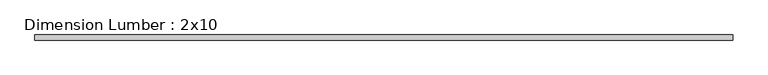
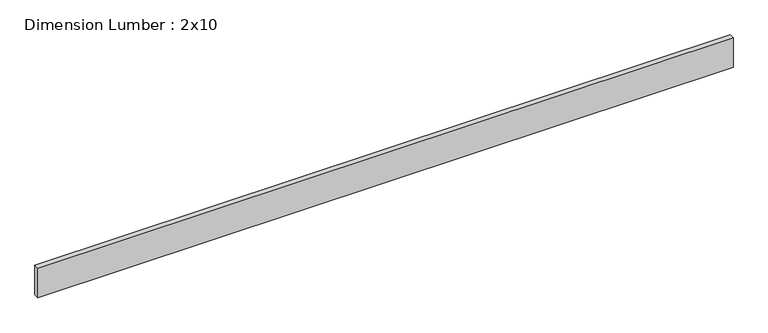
"""IFC4 building model written with IfcOpenShell, lengths in millimetres: beam geometry, Dimension Lumber : 2x10."""

import ifcopenshell
import ifcopenshell.guid

model = None  # the IFC model being written
_history = None  # IfcOwnerHistory: only IFC2X3 demands one
_inside = {}  # id of a spatial element -> (the spatial element, [elements in it])
_under = {}  # id of a project, library or spatial element -> (it, [spatial elements below it])
_declared = {}  # id of a project -> (the project, [libraries it declares])
_typed = {}  # id of a type object -> (the type object, [elements of that type])
_made_of = {}  # id of a material, layer set ... -> (it, [elements and type objects made of it])


def new_model(schema):
    """Start an empty IFC model of exactly this schema.

    Asked for "IFC4X3", IfcOpenShell would pick the latest addendum, in which some entities
    have other attributes; the version numbers below select the first issue.
    IFC2X3 requires an IfcOwnerHistory on every rooted entity: one is made here for all.
    """
    global model, _history
    if schema == "IFC4X3":
        model = ifcopenshell.file(schema_version=(4, 3, 0, 0))
    else:
        model = ifcopenshell.file(schema=schema)
    _inside.clear()
    _under.clear()
    _declared.clear()
    _typed.clear()
    _made_of.clear()
    _history = None
    if model.schema == "IFC2X3":
        org = make("IfcOrganization", Name="unknown")
        user = make(
            "IfcPersonAndOrganization",
            ThePerson=make("IfcPerson", FamilyName="unknown"),
            TheOrganization=org,
        )
        app = make(
            "IfcApplication",
            ApplicationDeveloper=org,
            Version="unknown",
            ApplicationFullName="unknown",
            ApplicationIdentifier="unknown",
        )
        _history = make(
            "IfcOwnerHistory",
            OwningUser=user,
            OwningApplication=app,
            ChangeAction="ADDED",
            CreationDate=0,
        )
    return model


def make(cls, **values):
    """One entity of the class cls with the attributes given. An attribute that is None is left unset."""
    return model.create_entity(
        cls, **{name: value for name, value in values.items() if value is not None}
    )


def rooted(cls, **values):
    """An entity with a GlobalId (a new one), such as an element, a storey or a relation."""
    return make(cls, GlobalId=ifcopenshell.guid.new(), OwnerHistory=_history, **values)


def si_unit(unit_type, name, prefix=None):
    """IfcSIUnit, for example si_unit("LENGTHUNIT", "METRE", prefix="MILLI")."""
    return make("IfcSIUnit", UnitType=unit_type, Prefix=prefix, Name=name)


def assignment(units):
    """IfcUnitAssignment: the units of a project."""
    return None if units is None else make("IfcUnitAssignment", Units=units)


def point(xyz):
    """IfcCartesianPoint."""
    return None if xyz is None else make("IfcCartesianPoint", Coordinates=xyz)


def direction(xyz):
    """IfcDirection."""
    return None if xyz is None else make("IfcDirection", DirectionRatios=xyz)


def frame(location, z_axis=None, x_axis=None):
    """IfcAxis2Placement3D, a coordinate frame: its origin and axes. An axis left out is left unset."""
    return make(
        "IfcAxis2Placement3D",
        Location=point(location),
        Axis=direction(z_axis),
        RefDirection=direction(x_axis),
    )


def origin():
    """The frame at (0, 0, 0) with its axes left unset."""
    return frame((0.0, 0.0, 0.0))


def place(relative_to, where):
    """IfcLocalPlacement: puts the frame where relative to a parent placement (None: the world)."""
    return make(
        "IfcLocalPlacement", PlacementRelTo=relative_to, RelativePlacement=where
    )


def context(
    kind, dimensions, precision=None, world=None, true_north=None, identifier=None
):
    """IfcGeometricRepresentationContext, for example the 3D "Model" context."""
    return make(
        "IfcGeometricRepresentationContext",
        ContextIdentifier=identifier,
        ContextType=kind,
        CoordinateSpaceDimension=dimensions,
        Precision=precision,
        WorldCoordinateSystem=world,
        TrueNorth=true_north,
    )


def project(units=None, contexts=None):
    """IfcProject with its units and contexts."""
    return rooted(
        "IfcProject",
        Name="project",
        RepresentationContexts=contexts,
        UnitsInContext=assignment(units),
    )


def spatial(cls, under=None, at=None, **own):
    """A site, building, storey or space (cls), placed at a placement, below another one or the project."""
    s = rooted(cls, ObjectPlacement=at, **own)
    if under is not None:
        _under.setdefault(under.id(), (under, []))[1].append(s)
    return s


def polyline(points):
    """IfcPolyline through the points."""
    return make("IfcPolyline", Points=[point(p) for p in points])


def outline(outer, holes=None, kind="AREA"):
    """IfcArbitraryClosedProfileDef: a profile drawn as a closed curve; with holes, ...WithVoids."""
    if holes is None:
        return make("IfcArbitraryClosedProfileDef", ProfileType=kind, OuterCurve=outer)
    return make(
        "IfcArbitraryProfileDefWithVoids",
        ProfileType=kind,
        OuterCurve=outer,
        InnerCurves=holes,
    )


def extrude(swept, where, along, depth):
    """IfcExtrudedAreaSolid: the profile swept, set in the frame where, extruded along a direction by depth."""
    return make(
        "IfcExtrudedAreaSolid",
        SweptArea=swept,
        Position=where,
        ExtrudedDirection=direction(along),
        Depth=depth,
    )


def shape(context_of_items, identifier, shape_type, items):
    """IfcShapeRepresentation: the items that make up one representation, for example the "Body"."""
    return make(
        "IfcShapeRepresentation",
        ContextOfItems=context_of_items,
        RepresentationIdentifier=identifier,
        RepresentationType=shape_type,
        Items=items,
    )


def source(mapping_origin, context_of_items, identifier, shape_type, items):
    """IfcRepresentationMap: a shape defined once, which mapped items show again and again."""
    return make(
        "IfcRepresentationMap",
        MappingOrigin=mapping_origin,
        MappedRepresentation=shape(context_of_items, identifier, shape_type, items),
    )


def transform(
    local_origin,
    x_axis=None,
    y_axis=None,
    z_axis=None,
    scale=None,
    scale2=None,
    scale3=None,
    uniform=True,
):
    """IfcCartesianTransformationOperator3D, or its non-uniform kind. x_axis, y_axis, z_axis: its Axis1, 2, 3."""
    if uniform:
        return make(
            "IfcCartesianTransformationOperator3D",
            Axis1=direction(x_axis),
            Axis2=direction(y_axis),
            LocalOrigin=point(local_origin),
            Scale=scale,
            Axis3=direction(z_axis),
        )
    return make(
        "IfcCartesianTransformationOperator3DnonUniform",
        Axis1=direction(x_axis),
        Axis2=direction(y_axis),
        LocalOrigin=point(local_origin),
        Scale=scale,
        Axis3=direction(z_axis),
        Scale2=scale2,
        Scale3=scale3,
    )


def mapped(mapping_source, mapping_target):
    """IfcMappedItem: shows the shape of a source again, moved by a transform."""
    return make(
        "IfcMappedItem", MappingSource=mapping_source, MappingTarget=mapping_target
    )


def made_of(thing, what):
    """Note that an element or type object is made of a material, layer set ...; save() writes the relation."""
    if what is not None:
        _made_of.setdefault(what.id(), (what, []))[1].append(thing)
    return thing


def element(
    cls,
    number,
    at=None,
    inside=None,
    cuts=None,
    type_object=None,
    material=None,
    context=None,
    identifier="Body",
    shape_type=None,
    held_by="IfcProductDefinitionShape",
    body=None,
    shapes=None,
    **own,
):
    """One element of the class cls, such as IfcWall. Its Tag is "e" and its number.

    at: its placement. inside: the storey or other place that contains it. cuts: it is an
    opening in that element (IfcRelVoidsElement). A single representation is given by context,
    identifier, shape_type and body (its items); several are given by shapes. held_by: the class
    of the entity that holds the representations. save() writes the other relations.
    """
    e = rooted(cls, Tag="e%d" % number, ObjectPlacement=at, **own)
    if body is not None:
        shapes = [shape(context, identifier, shape_type, body)]
    if shapes is not None:
        e.Representation = make(held_by, Representations=shapes)
    if inside is not None:
        _inside.setdefault(inside.id(), (inside, []))[1].append(e)
    if cuts is not None:
        rooted(
            "IfcRelVoidsElement", RelatingBuildingElement=cuts, RelatedOpeningElement=e
        )
    if type_object is not None:
        _typed.setdefault(type_object.id(), (type_object, []))[1].append(e)
    return made_of(e, material)


def aggregate(whole, parts):
    """IfcRelAggregates: a whole, such as a stair, and the parts it consists of."""
    return rooted("IfcRelAggregates", RelatingObject=whole, RelatedObjects=parts)


def save(model, path):
    """Write the relations noted so far, then the file.

    IfcRelAggregates (storeys below a building ...), IfcRelContainedInSpatialStructure (elements
    in a storey), IfcRelDefinesByType, IfcRelAssociatesMaterial and IfcRelDeclares: one each for
    every whole, place, type object, material and project.
    """
    for whole, parts in _under.values():
        aggregate(whole, parts)
    for where, things in _inside.values():
        rooted(
            "IfcRelContainedInSpatialStructure",
            RelatedElements=things,
            RelatingStructure=where,
        )
    for kind, things in _typed.values():
        rooted("IfcRelDefinesByType", RelatedObjects=things, RelatingType=kind)
    for what, things in _made_of.values():
        rooted("IfcRelAssociatesMaterial", RelatedObjects=things, RelatingMaterial=what)
    for by, libraries in _declared.values():
        rooted("IfcRelDeclares", RelatingContext=by, RelatedDefinitions=libraries)
    model.write(path)


def dimension_lumber_2x10_b1b00c38(model_context):
    return source(origin(), model_context, "Body", "SweptSolid", [
        extrude(outline(polyline([(-3812.5581501, 19.05), (-3812.5581501, -19.05), (-9019.871011, -19.05), (-9019.871011, 19.05), (-3812.5581501, 19.05)])), frame((0.0, 0.0, -117.475), z_axis=(0.0, 0.0, 1.0), x_axis=(1.0, 0.0, 0.0)), (0.0, 0.0, 1.0), 234.95),
    ])


if __name__ == "__main__":
    model = new_model("IFC4")
    model_context = context("Model", 3, world=origin())
    ifc_project = project(units=[si_unit("LENGTHUNIT", "METRE", prefix="MILLI")], contexts=[model_context])
    site = spatial("IfcSite", under=ifc_project)
    building = spatial("IfcBuilding", under=site)
    placement = place(None, origin())
    dimension_lumber_2x10_shape = dimension_lumber_2x10_b1b00c38(model_context)
    element("IfcBeam", 1, ObjectType="Dimension Lumber : 2x10", at=placement, inside=building, context=model_context, shape_type="MappedRepresentation", body=[
        mapped(dimension_lumber_2x10_shape, transform((0.0, 0.0, 0.0), x_axis=(1.0, 0.0, 0.0), y_axis=(0.0, 1.0, 0.0), z_axis=(0.0, 0.0, 1.0))),
    ])
    save(model, "model.ifc")
